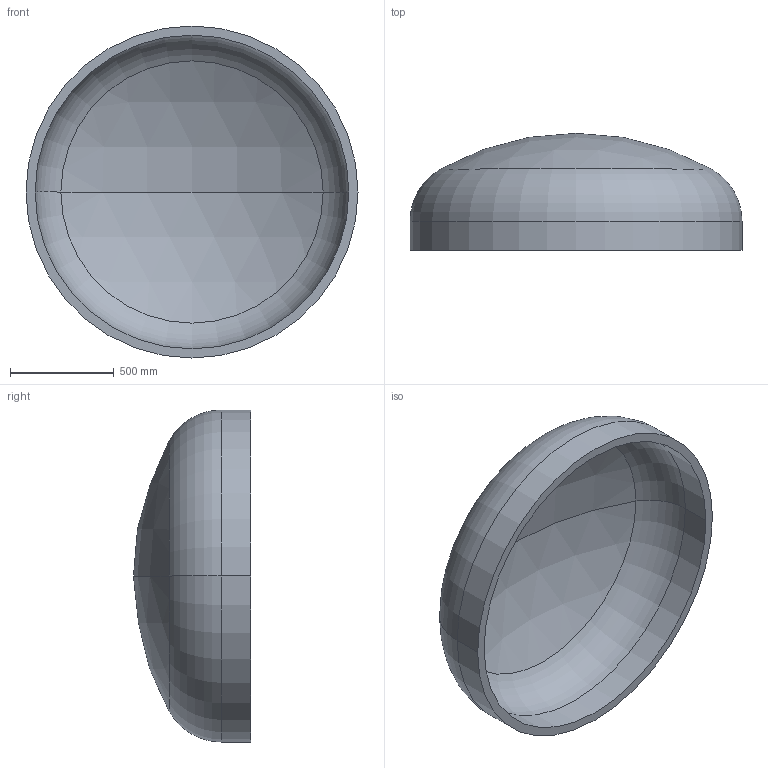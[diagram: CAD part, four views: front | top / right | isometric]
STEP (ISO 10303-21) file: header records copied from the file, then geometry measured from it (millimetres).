
FILE_DESCRIPTION (( 'STEP AP203' ), '1' );
FILE_NAME ('DIN 28013 Korbbogenform_-_Boden DIN 28013 - 1600 x 140 - I - s=44.step', '2016-07-01T11:17:06', ( '' ), ( '' ), 'SwSTEP 2.0', 'SolidWorks 2013', '' );
FILE_SCHEMA (( 'CONFIG_CONTROL_DESIGN' ));
Length unit declared in the file: millimetre
Products named in the file (1): DIN 28013 Korbbogenform_-_Boden DIN 28013 - 1600 x 140 - I - s=44
Bounding box: 1600 x 563.94 x 1600 mm (x, y, z)
Volume: 148171122.2 mm3; surface area: 6954189.8 mm2
Topology: 1 solids, 1 shells, 13 faces, 24 edges, 14 vertices
Faces by surface type: torus 4, cylinder 4, sphere 4, plane 1
Entity records: 407 total; most frequent: DIRECTION 72, CARTESIAN_POINT 52, ORIENTED_EDGE 48, AXIS2_PLACEMENT_3D 34, EDGE_CURVE 24, CIRCLE 20, VERTEX_POINT 14, EDGE_LOOP 14
